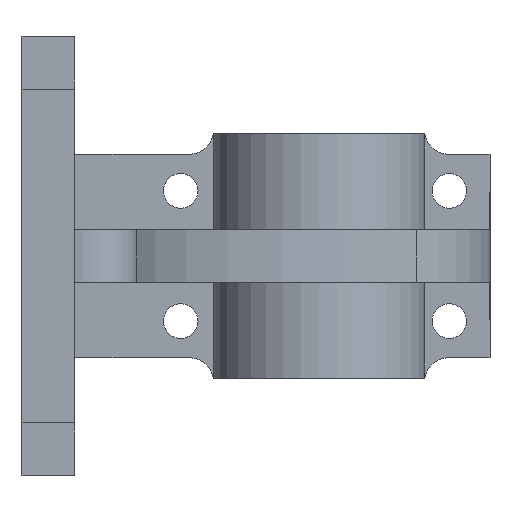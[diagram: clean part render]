
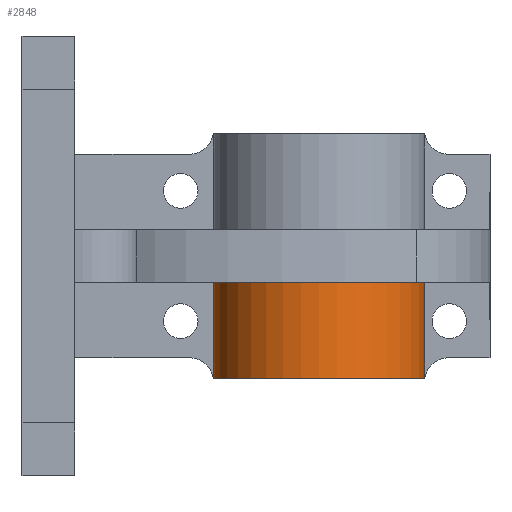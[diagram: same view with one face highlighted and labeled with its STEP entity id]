
A CAD part, front view. The second image highlights one B-rep face of the part: STEP entity #2848.
In plain terms, the highlighted cylindrical face has radius 26 mm (diameter 52 mm), a partial arc.
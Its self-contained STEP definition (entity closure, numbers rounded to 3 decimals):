
#272 = VERTEX_POINT ( 'NONE', #365 ) ;
#275 = VERTEX_POINT ( 'NONE', #332 ) ;
#286 = VERTEX_POINT ( 'NONE', #405 ) ;
#288 = VERTEX_POINT ( 'NONE', #368 ) ;
#332 = CARTESIAN_POINT ( 'NONE',  ( 47., 49., -6.5 ) ) ;
#365 = CARTESIAN_POINT ( 'NONE',  ( 99., 49., -6.5 ) ) ;
#368 = CARTESIAN_POINT ( 'NONE',  ( 47., 49., -30. ) ) ;
#405 = CARTESIAN_POINT ( 'NONE',  ( 99., 49., -30. ) ) ;
#529 = CARTESIAN_POINT ( 'NONE',  ( 47., 49., 30. ) ) ;
#530 = DIRECTION ( 'NONE',  ( 0., 0., -1. ) ) ;
#531 = CARTESIAN_POINT ( 'NONE',  ( 99., 49., 30. ) ) ;
#532 = DIRECTION ( 'NONE',  ( 0., 0., -1. ) ) ;
#533 = CARTESIAN_POINT ( 'NONE',  ( 73., 49., -6.5 ) ) ;
#534 = DIRECTION ( 'NONE',  ( 0., 0., 1. ) ) ;
#535 = DIRECTION ( 'NONE',  ( 1., 0., 0. ) ) ;
#538 = CARTESIAN_POINT ( 'NONE',  ( 73., 49., -30. ) ) ;
#539 = DIRECTION ( 'NONE',  ( 0., 0., 1. ) ) ;
#540 = DIRECTION ( 'NONE',  ( 1., 0., 0. ) ) ;
#767 = EDGE_CURVE ( 'NONE', #275, #288, #1330, .T. ) ;
#768 = EDGE_CURVE ( 'NONE', #275, #272, #1326, .T. ) ;
#769 = EDGE_CURVE ( 'NONE', #288, #286, #1334, .T. ) ;
#770 = EDGE_CURVE ( 'NONE', #272, #286, #1335, .T. ) ;
#965 = AXIS2_PLACEMENT_3D ( 'NONE', #533, #534, #535 ) ;
#966 = AXIS2_PLACEMENT_3D ( 'NONE', #538, #539, #540 ) ;
#1064 = ORIENTED_EDGE ( 'NONE', *, *, #768, .F. ) ;
#1065 = ORIENTED_EDGE ( 'NONE', *, *, #767, .T. ) ;
#1066 = ORIENTED_EDGE ( 'NONE', *, *, #769, .T. ) ;
#1067 = ORIENTED_EDGE ( 'NONE', *, *, #770, .F. ) ;
#1326 = CIRCLE ( 'NONE', #965, 26. ) ;
#1330 = LINE ( 'NONE', #529, #1333 ) ;
#1333 = VECTOR ( 'NONE', #530, 1000. ) ;
#1334 = CIRCLE ( 'NONE', #966, 26. ) ;
#1335 = LINE ( 'NONE', #531, #1337 ) ;
#1337 = VECTOR ( 'NONE', #532, 1000. ) ;
#1680 = AXIS2_PLACEMENT_3D ( 'NONE', #2935, #2934, #2926 ) ;
#1862 = FACE_OUTER_BOUND ( 'NONE', #2576, .T. ) ;
#1872 = CYLINDRICAL_SURFACE ( 'NONE', #1680, 26. ) ;
#2576 = EDGE_LOOP ( 'NONE', ( #1064, #1065, #1066, #1067 ) ) ;
#2848 = ADVANCED_FACE ( 'NONE', ( #1862 ), #1872, .T. ) ;
#2926 = DIRECTION ( 'NONE',  ( -1., 0., 0. ) ) ;
#2934 = DIRECTION ( 'NONE',  ( 0., 0., -1. ) ) ;
#2935 = CARTESIAN_POINT ( 'NONE',  ( 73., 49., 30. ) ) ;
